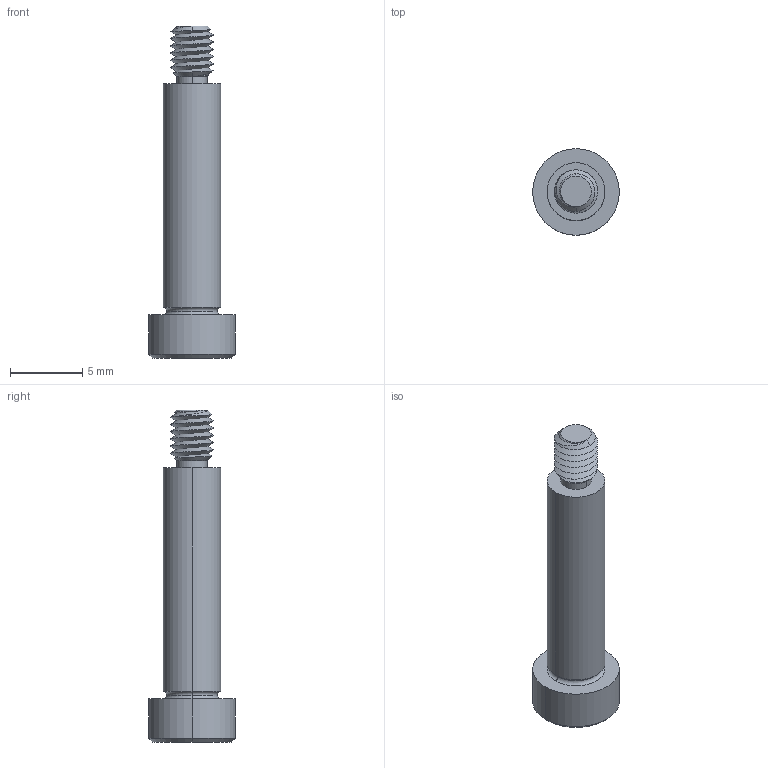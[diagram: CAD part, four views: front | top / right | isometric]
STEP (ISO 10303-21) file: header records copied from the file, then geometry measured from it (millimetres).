
FILE_DESCRIPTION (( 'STEP AP203' ), '1' );
FILE_NAME ('P0130.040-016-B2.step', '2021-11-09T21:04:52', ( '' ), ( '' ), 'SwSTEP 2.0', 'SolidWorks 2019', '' );
FILE_SCHEMA (( 'CONFIG_CONTROL_DESIGN' ));
Length unit declared in the file: millimetre
Products named in the file (1): P0130.040-016-B2
Bounding box: 6 x 6 x 23 mm (x, y, z)
Volume: 296.3 mm3; surface area: 385.4 mm2
Topology: 1 solids, 1 shells, 54 faces, 124 edges, 73 vertices
Faces by surface type: cylinder 18, plane 16, cone 14, torus 4, bspline 2
Entity records: 2218 total; most frequent: CARTESIAN_POINT 1016, ORIENTED_EDGE 244, DIRECTION 229, EDGE_CURVE 122, AXIS2_PLACEMENT_3D 93, VERTEX_POINT 73, EDGE_LOOP 57, ADVANCED_FACE 54
